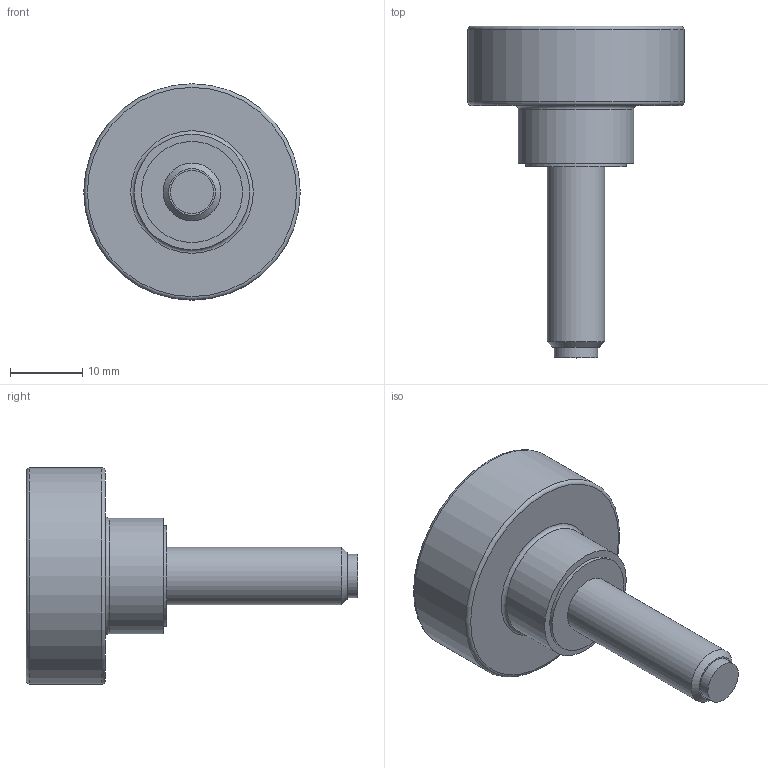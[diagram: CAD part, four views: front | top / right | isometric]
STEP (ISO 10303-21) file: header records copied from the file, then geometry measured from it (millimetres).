
FILE_DESCRIPTION( ( 'STEP AP203' ), '1' );
FILE_NAME( 'C:/Temp/Ganter_Step_05_03_2020/data/2_2/gn_421_10/Hollow knurled knob, with tip GN 421.10-M8-25-MS.stp', '2020-03-05T12:25:34', ( 'License CC BY-ND 4.0' ), ( 'CADENAS' ), ' ', 'PARTsolutions', ' ' );
FILE_SCHEMA( ( 'CONFIG_CONTROL_DESIGN' ) );
Length unit declared in the file: millimetre
Products named in the file (1): _Hollow knurled knob, with tip GN 421.10-M8-25-MS
Bounding box: 30 x 46 x 30 mm (x, y, z)
Volume: 7059.7 mm3; surface area: 4135.8 mm2
Topology: 1 solids, 1 shells, 19 faces, 30 edges, 19 vertices
Faces by surface type: plane 8, cylinder 7, torus 3, cone 1
Full cylindrical faces by diameter (mm): 6 x1, 8 x1, 12 x1, 14 x1, 16 x1, 26 x1, 30 x1
Entity records: 418 total; most frequent: DIRECTION 76, CARTESIAN_POINT 56, AXIS2_PLACEMENT_3D 38, EDGE_LOOP 36, ORIENTED_EDGE 36, FACE_OUTER_BOUND 29, ADVANCED_FACE 19, EDGE_CURVE 18
